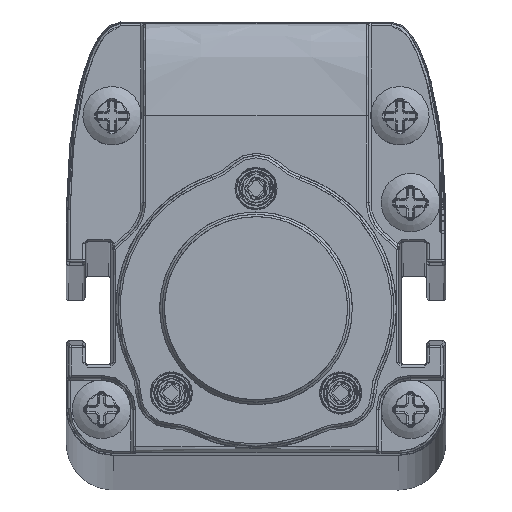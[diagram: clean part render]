
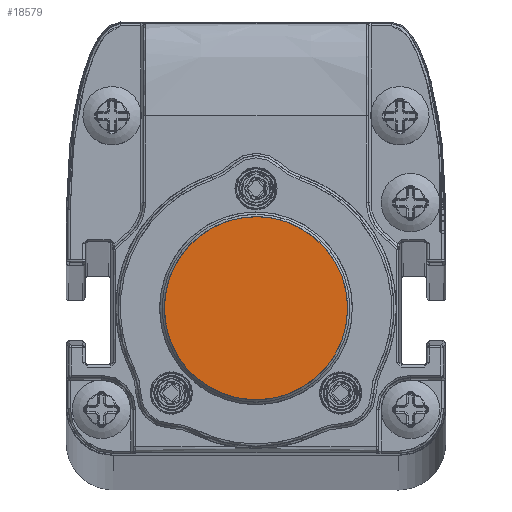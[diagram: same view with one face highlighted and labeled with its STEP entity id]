
A CAD part, top view. The second image highlights one B-rep face of the part: STEP entity #18579.
In plain terms, the highlighted planar face has unit normal (0, 0, 1).
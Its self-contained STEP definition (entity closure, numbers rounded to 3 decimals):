
#15814=B_SPLINE_CURVE_WITH_KNOTS('',3,(#63209,#63210,#63211,#63212,#63213,
#63214,#63215,#63216,#63217,#63218,#63219,#63220,#63221,#63222,#63223,#63224,
#63225,#63226,#63227,#63228,#63229,#63230,#63231,#63232,#63233,#63234,#63235,
#63236,#63237,#63238,#63239,#63240,#63241,#63242,#63243,#63244,#63245,#63246,
#63247,#63248,#63249,#63250,#63251,#63252,#63253,#63254,#63255,#63256,#63257,
#63258,#63259,#63260,#63261,#63262,#63263,#63264,#63265,#63266,#63267,#63268,
#63269,#63270,#63271,#63272,#63273,#63274,#63275,#63276,#63277,#63278,#63279,
#63280,#63281,#63282,#63283,#63284,#63285,#63286,#63287,#63288,#63289,#63290,
#63291,#63292,#63293,#63294,#63295,#63296,#63297,#63298,#63299,#63300,#63301,
#63302,#63303,#63304,#63305,#63306,#63307,#63308,#63309,#63310,#63311),
 .UNSPECIFIED.,.T.,.F.,(1,3,3,3,3,3,3,3,3,3,3,3,3,3,3,3,3,3,3,3,3,3,3,3,
3,3,3,3,3,3,3,3,3,3,3,3,1),(-0.029,0.,0.029,0.059,
0.088,0.118,0.147,0.176,
0.206,0.235,0.265,0.294,
0.324,0.353,0.382,0.412,
0.441,0.471,0.5,0.529,0.559,
0.588,0.618,0.647,0.676,
0.706,0.735,0.765,0.794,
0.824,0.853,0.882,0.912,
0.941,0.971,1.,1.029),.UNSPECIFIED.);
#18579=ADVANCED_FACE('',(#20623),#19555,.T.);
#19555=PLANE('',#44342);
#20623=FACE_OUTER_BOUND('',#22044,.T.);
#22044=EDGE_LOOP('',(#28380));
#28380=ORIENTED_EDGE('',*,*,#37584,.T.);
#32559=VERTEX_POINT('',#63312);
#37584=EDGE_CURVE('',#32559,#32559,#15814,.T.);
#44342=AXIS2_PLACEMENT_3D('',#63313,#48247,#48248);
#48247=DIRECTION('',(0.,0.,1.));
#48248=DIRECTION('',(1.,0.,0.));
#63209=CARTESIAN_POINT('',(7.8,0.,1733.34));
#63210=CARTESIAN_POINT('',(7.8,0.465,1733.34));
#63211=CARTESIAN_POINT('',(7.759,0.925,1733.34));
#63212=CARTESIAN_POINT('',(7.679,1.376,1733.34));
#63213=CARTESIAN_POINT('',(7.638,1.601,1733.34));
#63214=CARTESIAN_POINT('',(7.588,1.825,1733.34));
#63215=CARTESIAN_POINT('',(7.527,2.047,1733.34));
#63216=CARTESIAN_POINT('',(7.466,2.269,1733.34));
#63217=CARTESIAN_POINT('',(7.407,2.458,1733.34));
#63218=CARTESIAN_POINT('',(7.315,2.708,1733.34));
#63219=CARTESIAN_POINT('',(7.129,3.209,1733.34));
#63220=CARTESIAN_POINT('',(6.898,3.683,1733.34));
#63221=CARTESIAN_POINT('',(6.62,4.128,1733.34));
#63222=CARTESIAN_POINT('',(6.343,4.573,1733.34));
#63223=CARTESIAN_POINT('',(6.043,4.965,1733.34));
#63224=CARTESIAN_POINT('',(5.651,5.376,1733.34));
#63225=CARTESIAN_POINT('',(4.868,6.2,1733.34));
#63226=CARTESIAN_POINT('',(3.912,6.837,1733.34));
#63227=CARTESIAN_POINT('',(2.89,7.245,1733.34));
#63228=CARTESIAN_POINT('',(2.378,7.449,1733.34));
#63229=CARTESIAN_POINT('',(1.856,7.597,1733.34));
#63230=CARTESIAN_POINT('',(1.324,7.689,1733.34));
#63231=CARTESIAN_POINT('',(1.058,7.734,1733.34));
#63232=CARTESIAN_POINT('',(0.79,7.766,1733.34));
#63233=CARTESIAN_POINT('',(0.52,7.784,1733.34));
#63234=CARTESIAN_POINT('',(0.249,7.801,1733.34));
#63235=CARTESIAN_POINT('',(-0.055,7.804,1733.34));
#63236=CARTESIAN_POINT('',(-0.3,7.794,1733.34));
#63237=CARTESIAN_POINT('',(-0.79,7.775,1733.34));
#63238=CARTESIAN_POINT('',(-1.271,7.712,1733.34));
#63239=CARTESIAN_POINT('',(-1.742,7.604,1733.34));
#63240=CARTESIAN_POINT('',(-2.213,7.496,1733.34));
#63241=CARTESIAN_POINT('',(-2.713,7.327,1733.34));
#63242=CARTESIAN_POINT('',(-3.123,7.147,1733.34));
#63243=CARTESIAN_POINT('',(-3.534,6.968,1733.34));
#63244=CARTESIAN_POINT('',(-3.924,6.757,1733.34));
#63245=CARTESIAN_POINT('',(-4.293,6.513,1733.34));
#63246=CARTESIAN_POINT('',(-4.477,6.392,1733.34));
#63247=CARTESIAN_POINT('',(-4.656,6.262,1733.34));
#63248=CARTESIAN_POINT('',(-4.83,6.125,1733.34));
#63249=CARTESIAN_POINT('',(-5.004,5.987,1733.34));
#63250=CARTESIAN_POINT('',(-5.15,5.864,1733.34));
#63251=CARTESIAN_POINT('',(-5.337,5.688,1733.34));
#63252=CARTESIAN_POINT('',(-5.712,5.337,1733.34));
#63253=CARTESIAN_POINT('',(-6.047,4.956,1733.34));
#63254=CARTESIAN_POINT('',(-6.341,4.545,1733.34));
#63255=CARTESIAN_POINT('',(-6.635,4.134,1733.34));
#63256=CARTESIAN_POINT('',(-6.869,3.738,1733.34));
#63257=CARTESIAN_POINT('',(-7.102,3.226,1733.34));
#63258=CARTESIAN_POINT('',(-7.567,2.203,1733.34));
#63259=CARTESIAN_POINT('',(-7.8,1.124,1733.34));
#63260=CARTESIAN_POINT('',(-7.8,0.,1733.34));
#63261=CARTESIAN_POINT('',(-7.8,-0.562,1733.34));
#63262=CARTESIAN_POINT('',(-7.742,-1.113,1733.34));
#63263=CARTESIAN_POINT('',(-7.626,-1.651,1733.34));
#63264=CARTESIAN_POINT('',(-7.509,-2.189,1733.34));
#63265=CARTESIAN_POINT('',(-7.314,-2.758,1733.34));
#63266=CARTESIAN_POINT('',(-7.102,-3.226,1733.34));
#63267=CARTESIAN_POINT('',(-6.889,-3.694,1733.34));
#63268=CARTESIAN_POINT('',(-6.636,-4.134,1733.34));
#63269=CARTESIAN_POINT('',(-6.341,-4.544,1733.34));
#63270=CARTESIAN_POINT('',(-6.194,-4.75,1733.34));
#63271=CARTESIAN_POINT('',(-6.037,-4.947,1733.34));
#63272=CARTESIAN_POINT('',(-5.87,-5.138,1733.34));
#63273=CARTESIAN_POINT('',(-5.702,-5.329,1733.34));
#63274=CARTESIAN_POINT('',(-5.5,-5.535,1733.34));
#63275=CARTESIAN_POINT('',(-5.337,-5.688,1733.34));
#63276=CARTESIAN_POINT('',(-5.01,-5.995,1733.34));
#63277=CARTESIAN_POINT('',(-4.662,-6.27,1733.34));
#63278=CARTESIAN_POINT('',(-4.293,-6.513,1733.34));
#63279=CARTESIAN_POINT('',(-3.924,-6.756,1733.34));
#63280=CARTESIAN_POINT('',(-3.573,-6.951,1733.34));
#63281=CARTESIAN_POINT('',(-3.123,-7.147,1733.34));
#63282=CARTESIAN_POINT('',(-2.674,-7.344,1733.34));
#63283=CARTESIAN_POINT('',(-2.213,-7.496,1733.34));
#63284=CARTESIAN_POINT('',(-1.743,-7.604,1733.34));
#63285=CARTESIAN_POINT('',(-1.507,-7.658,1733.34));
#63286=CARTESIAN_POINT('',(-1.27,-7.701,1733.34));
#63287=CARTESIAN_POINT('',(-1.029,-7.732,1733.34));
#63288=CARTESIAN_POINT('',(-0.789,-7.764,1733.34));
#63289=CARTESIAN_POINT('',(-0.575,-7.784,1733.34));
#63290=CARTESIAN_POINT('',(-0.3,-7.794,1733.34));
#63291=CARTESIAN_POINT('',(0.801,-7.837,1733.34));
#63292=CARTESIAN_POINT('',(1.834,-7.666,1733.34));
#63293=CARTESIAN_POINT('',(2.89,-7.245,1733.34));
#63294=CARTESIAN_POINT('',(3.417,-7.035,1733.34));
#63295=CARTESIAN_POINT('',(3.912,-6.774,1733.34));
#63296=CARTESIAN_POINT('',(4.372,-6.462,1733.34));
#63297=CARTESIAN_POINT('',(4.833,-6.15,1733.34));
#63298=CARTESIAN_POINT('',(5.283,-5.763,1733.34));
#63299=CARTESIAN_POINT('',(5.651,-5.376,1733.34));
#63300=CARTESIAN_POINT('',(6.019,-4.989,1733.34));
#63301=CARTESIAN_POINT('',(6.342,-4.573,1733.34));
#63302=CARTESIAN_POINT('',(6.62,-4.128,1733.34));
#63303=CARTESIAN_POINT('',(6.759,-3.906,1733.34));
#63304=CARTESIAN_POINT('',(6.886,-3.676,1733.34));
#63305=CARTESIAN_POINT('',(7.002,-3.44,1733.34));
#63306=CARTESIAN_POINT('',(7.117,-3.203,1733.34));
#63307=CARTESIAN_POINT('',(7.234,-2.926,1733.34));
#63308=CARTESIAN_POINT('',(7.315,-2.708,1733.34));
#63309=CARTESIAN_POINT('',(7.638,-1.835,1733.34));
#63310=CARTESIAN_POINT('',(7.8,-0.933,1733.34));
#63311=CARTESIAN_POINT('',(7.8,0.,1733.34));
#63312=CARTESIAN_POINT('',(7.8,0.,1733.34));
#63313=CARTESIAN_POINT('',(-8.9,-8.81,1733.34));
